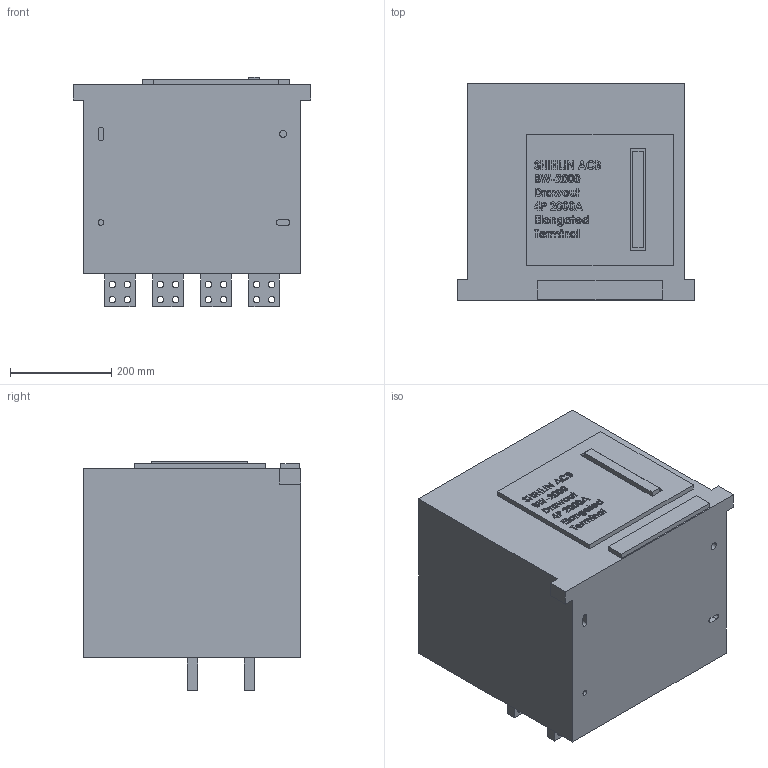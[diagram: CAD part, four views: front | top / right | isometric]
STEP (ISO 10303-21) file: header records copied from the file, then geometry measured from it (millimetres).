
FILE_DESCRIPTION (( 'STEP AP203' ), '1' );
FILE_NAME ('BW-2000-Drawout-4P-2000A-Elongated Terminal.STEP', '2016-11-03T01:08:33', ( '' ), ( '' ), 'SwSTEP 2.0', 'SolidWorks 2015', '' );
FILE_SCHEMA (( 'CONFIG_CONTROL_DESIGN' ));
Length unit declared in the file: millimetre
Products named in the file (1): BW-2000-Drawout-4P-2000A-Elongated Terminal
Bounding box: 470 x 430 x 453.5 mm (x, y, z)
Volume: 70432025.9 mm3; surface area: 1179384.3 mm2
Topology: 1 solids, 1 shells, 768 faces, 2031 edges, 1354 vertices
Faces by surface type: plane 451, bspline 244, cylinder 73
Entity records: 37182 total; most frequent: CARTESIAN_POINT 19438, ORIENTED_EDGE 4062, DIRECTION 2739, EDGE_CURVE 2031, LINE 1397, VECTOR 1397, VERTEX_POINT 1354, EDGE_LOOP 921
